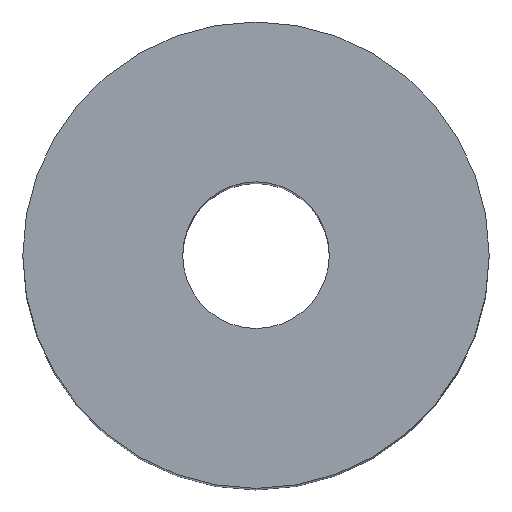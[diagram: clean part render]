
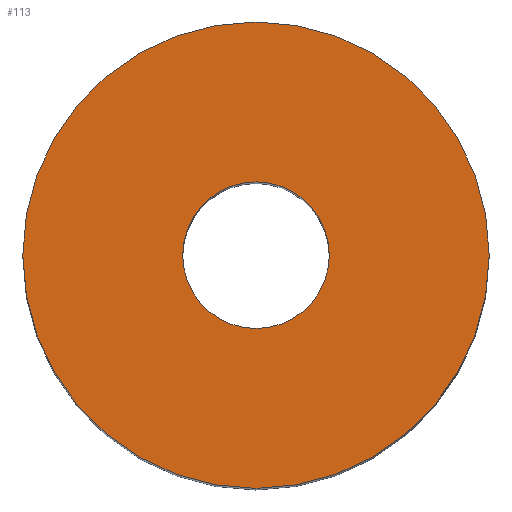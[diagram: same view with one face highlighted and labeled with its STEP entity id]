
A CAD part, top view. The second image highlights one B-rep face of the part: STEP entity #113.
In plain terms, the highlighted planar face has unit normal (0, 0, 1).
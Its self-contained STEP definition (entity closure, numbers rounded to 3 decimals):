
#113=ADVANCED_FACE('',(#121,#122),#119,.T.);
#119=PLANE('',#190);
#121=FACE_BOUND('',#125,.T.);
#122=FACE_BOUND('',#126,.T.);
#125=EDGE_LOOP('',(#133,#134));
#126=EDGE_LOOP('',(#135,#136));
#133=ORIENTED_EDGE('',*,*,#165,.T.);
#134=ORIENTED_EDGE('',*,*,#166,.T.);
#135=ORIENTED_EDGE('',*,*,#167,.F.);
#136=ORIENTED_EDGE('',*,*,#168,.F.);
#157=VERTEX_POINT('',#236);
#158=VERTEX_POINT('',#237);
#159=VERTEX_POINT('',#240);
#160=VERTEX_POINT('',#241);
#165=EDGE_CURVE('',#157,#158,#177,.T.);
#166=EDGE_CURVE('',#158,#157,#178,.T.);
#167=EDGE_CURVE('',#159,#160,#179,.T.);
#168=EDGE_CURVE('',#160,#159,#180,.T.);
#177=CIRCLE('',#186,35.);
#178=CIRCLE('',#187,35.);
#179=CIRCLE('',#188,11.);
#180=CIRCLE('',#189,11.);
#186=AXIS2_PLACEMENT_3D('',#235,#202,#203);
#187=AXIS2_PLACEMENT_3D('',#238,#204,#205);
#188=AXIS2_PLACEMENT_3D('',#239,#206,#207);
#189=AXIS2_PLACEMENT_3D('',#242,#208,#209);
#190=AXIS2_PLACEMENT_3D('',#243,#210,#211);
#202=DIRECTION('',(0.,0.,1.));
#203=DIRECTION('',(0.,1.,0.));
#204=DIRECTION('',(0.,0.,1.));
#205=DIRECTION('',(0.,-1.,0.));
#206=DIRECTION('',(0.,0.,1.));
#207=DIRECTION('',(0.,-1.,0.));
#208=DIRECTION('',(0.,0.,1.));
#209=DIRECTION('',(0.,1.,0.));
#210=DIRECTION('',(0.,0.,1.));
#211=DIRECTION('',(0.,1.,0.));
#235=CARTESIAN_POINT('',(0.,0.,140.));
#236=CARTESIAN_POINT('',(-35.,0.,140.));
#237=CARTESIAN_POINT('',(35.,0.,140.));
#238=CARTESIAN_POINT('',(0.,0.,140.));
#239=CARTESIAN_POINT('',(0.,0.,140.));
#240=CARTESIAN_POINT('',(11.,0.,140.));
#241=CARTESIAN_POINT('',(-11.,0.,140.));
#242=CARTESIAN_POINT('',(0.,0.,140.));
#243=CARTESIAN_POINT('',(0.,0.,140.));
